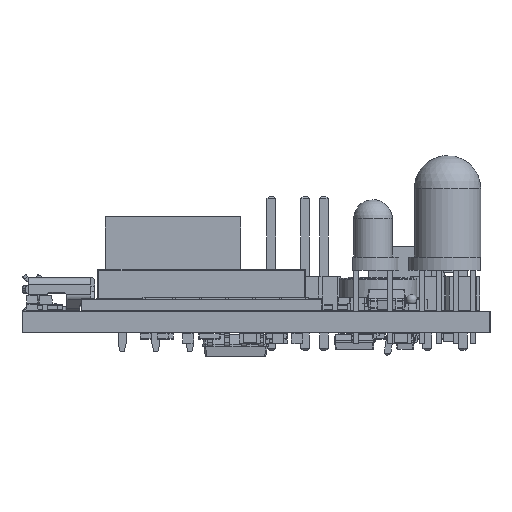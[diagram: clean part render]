
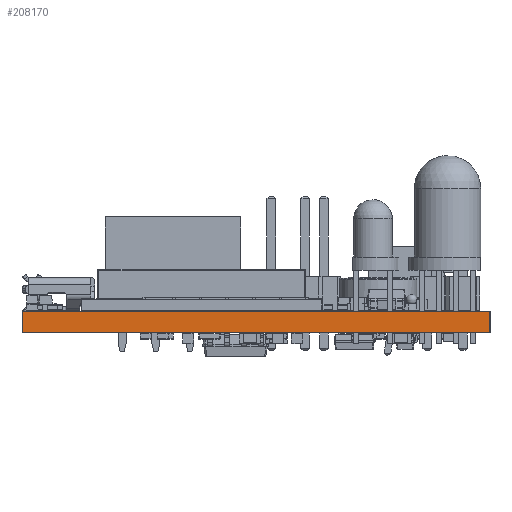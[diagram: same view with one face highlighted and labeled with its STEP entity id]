
A CAD part, left-side view. The second image highlights one B-rep face of the part: STEP entity #208170.
In plain terms, the highlighted planar face has unit normal (-1, 0, 0).
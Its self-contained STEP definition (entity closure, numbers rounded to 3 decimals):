
#208054 = EDGE_CURVE('',#208055,#208057,#208059,.T.);
#208055 = VERTEX_POINT('',#208056);
#208056 = CARTESIAN_POINT('',(-28.575,-17.526,0.));
#208057 = VERTEX_POINT('',#208058);
#208058 = CARTESIAN_POINT('',(-28.575,-17.526,1.6));
#208059 = SURFACE_CURVE('',#208060,(#208064,#208076),.PCURVE_S1.);
#208060 = LINE('',#208061,#208062);
#208061 = CARTESIAN_POINT('',(-28.575,-17.526,0.));
#208062 = VECTOR('',#208063,1.);
#208063 = DIRECTION('',(0.,0.,1.));
#208064 = PCURVE('',#208065,#208070);
#208065 = PLANE('',#208066);
#208066 = AXIS2_PLACEMENT_3D('',#208067,#208068,#208069);
#208067 = CARTESIAN_POINT('',(-28.575,-17.526,0.));
#208068 = DIRECTION('',(0.,1.,0.));
#208069 = DIRECTION('',(1.,0.,0.));
#208070 = DEFINITIONAL_REPRESENTATION('',(#208071),#208075);
#208071 = LINE('',#208072,#208073);
#208072 = CARTESIAN_POINT('',(0.,0.));
#208073 = VECTOR('',#208074,1.);
#208074 = DIRECTION('',(0.,-1.));
#208075 = ( GEOMETRIC_REPRESENTATION_CONTEXT(2) 
PARAMETRIC_REPRESENTATION_CONTEXT() REPRESENTATION_CONTEXT('2D SPACE',''
  ) );
#208076 = PCURVE('',#208077,#208082);
#208077 = PLANE('',#208078);
#208078 = AXIS2_PLACEMENT_3D('',#208079,#208080,#208081);
#208079 = CARTESIAN_POINT('',(-28.575,17.526,0.));
#208080 = DIRECTION('',(1.,0.,-0.));
#208081 = DIRECTION('',(0.,-1.,0.));
#208082 = DEFINITIONAL_REPRESENTATION('',(#208083),#208087);
#208083 = LINE('',#208084,#208085);
#208084 = CARTESIAN_POINT('',(35.052,0.));
#208085 = VECTOR('',#208086,1.);
#208086 = DIRECTION('',(0.,-1.));
#208087 = ( GEOMETRIC_REPRESENTATION_CONTEXT(2) 
PARAMETRIC_REPRESENTATION_CONTEXT() REPRESENTATION_CONTEXT('2D SPACE',''
  ) );
#208105 = PLANE('',#208106);
#208106 = AXIS2_PLACEMENT_3D('',#208107,#208108,#208109);
#208107 = CARTESIAN_POINT('',(-28.575,-17.526,1.6));
#208108 = DIRECTION('',(0.,0.,-1.));
#208109 = DIRECTION('',(-1.,0.,-0.));
#208159 = PLANE('',#208160);
#208160 = AXIS2_PLACEMENT_3D('',#208161,#208162,#208163);
#208161 = CARTESIAN_POINT('',(-28.575,-17.526,0.));
#208162 = DIRECTION('',(0.,0.,-1.));
#208163 = DIRECTION('',(-1.,0.,-0.));
#208170 = ADVANCED_FACE('',(#208171),#208077,.F.);
#208171 = FACE_BOUND('',#208172,.F.);
#208172 = EDGE_LOOP('',(#208173,#208203,#208224,#208225));
#208173 = ORIENTED_EDGE('',*,*,#208174,.T.);
#208174 = EDGE_CURVE('',#208175,#208177,#208179,.T.);
#208175 = VERTEX_POINT('',#208176);
#208176 = CARTESIAN_POINT('',(-28.575,17.526,0.));
#208177 = VERTEX_POINT('',#208178);
#208178 = CARTESIAN_POINT('',(-28.575,17.526,1.6));
#208179 = SURFACE_CURVE('',#208180,(#208184,#208191),.PCURVE_S1.);
#208180 = LINE('',#208181,#208182);
#208181 = CARTESIAN_POINT('',(-28.575,17.526,0.));
#208182 = VECTOR('',#208183,1.);
#208183 = DIRECTION('',(0.,0.,1.));
#208184 = PCURVE('',#208077,#208185);
#208185 = DEFINITIONAL_REPRESENTATION('',(#208186),#208190);
#208186 = LINE('',#208187,#208188);
#208187 = CARTESIAN_POINT('',(0.,0.));
#208188 = VECTOR('',#208189,1.);
#208189 = DIRECTION('',(0.,-1.));
#208190 = ( GEOMETRIC_REPRESENTATION_CONTEXT(2) 
PARAMETRIC_REPRESENTATION_CONTEXT() REPRESENTATION_CONTEXT('2D SPACE',''
  ) );
#208191 = PCURVE('',#208192,#208197);
#208192 = PLANE('',#208193);
#208193 = AXIS2_PLACEMENT_3D('',#208194,#208195,#208196);
#208194 = CARTESIAN_POINT('',(28.575,17.526,0.));
#208195 = DIRECTION('',(0.,-1.,0.));
#208196 = DIRECTION('',(-1.,0.,0.));
#208197 = DEFINITIONAL_REPRESENTATION('',(#208198),#208202);
#208198 = LINE('',#208199,#208200);
#208199 = CARTESIAN_POINT('',(57.15,0.));
#208200 = VECTOR('',#208201,1.);
#208201 = DIRECTION('',(0.,-1.));
#208202 = ( GEOMETRIC_REPRESENTATION_CONTEXT(2) 
PARAMETRIC_REPRESENTATION_CONTEXT() REPRESENTATION_CONTEXT('2D SPACE',''
  ) );
#208203 = ORIENTED_EDGE('',*,*,#208204,.T.);
#208204 = EDGE_CURVE('',#208177,#208057,#208205,.T.);
#208205 = SURFACE_CURVE('',#208206,(#208210,#208217),.PCURVE_S1.);
#208206 = LINE('',#208207,#208208);
#208207 = CARTESIAN_POINT('',(-28.575,17.526,1.6));
#208208 = VECTOR('',#208209,1.);
#208209 = DIRECTION('',(0.,-1.,0.));
#208210 = PCURVE('',#208077,#208211);
#208211 = DEFINITIONAL_REPRESENTATION('',(#208212),#208216);
#208212 = LINE('',#208213,#208214);
#208213 = CARTESIAN_POINT('',(0.,-1.6));
#208214 = VECTOR('',#208215,1.);
#208215 = DIRECTION('',(1.,0.));
#208216 = ( GEOMETRIC_REPRESENTATION_CONTEXT(2) 
PARAMETRIC_REPRESENTATION_CONTEXT() REPRESENTATION_CONTEXT('2D SPACE',''
  ) );
#208217 = PCURVE('',#208105,#208218);
#208218 = DEFINITIONAL_REPRESENTATION('',(#208219),#208223);
#208219 = LINE('',#208220,#208221);
#208220 = CARTESIAN_POINT('',(0.,35.052));
#208221 = VECTOR('',#208222,1.);
#208222 = DIRECTION('',(-0.,-1.));
#208223 = ( GEOMETRIC_REPRESENTATION_CONTEXT(2) 
PARAMETRIC_REPRESENTATION_CONTEXT() REPRESENTATION_CONTEXT('2D SPACE',''
  ) );
#208224 = ORIENTED_EDGE('',*,*,#208054,.F.);
#208225 = ORIENTED_EDGE('',*,*,#208226,.F.);
#208226 = EDGE_CURVE('',#208175,#208055,#208227,.T.);
#208227 = SURFACE_CURVE('',#208228,(#208232,#208239),.PCURVE_S1.);
#208228 = LINE('',#208229,#208230);
#208229 = CARTESIAN_POINT('',(-28.575,17.526,0.));
#208230 = VECTOR('',#208231,1.);
#208231 = DIRECTION('',(0.,-1.,0.));
#208232 = PCURVE('',#208077,#208233);
#208233 = DEFINITIONAL_REPRESENTATION('',(#208234),#208238);
#208234 = LINE('',#208235,#208236);
#208235 = CARTESIAN_POINT('',(0.,0.));
#208236 = VECTOR('',#208237,1.);
#208237 = DIRECTION('',(1.,0.));
#208238 = ( GEOMETRIC_REPRESENTATION_CONTEXT(2) 
PARAMETRIC_REPRESENTATION_CONTEXT() REPRESENTATION_CONTEXT('2D SPACE',''
  ) );
#208239 = PCURVE('',#208159,#208240);
#208240 = DEFINITIONAL_REPRESENTATION('',(#208241),#208245);
#208241 = LINE('',#208242,#208243);
#208242 = CARTESIAN_POINT('',(0.,35.052));
#208243 = VECTOR('',#208244,1.);
#208244 = DIRECTION('',(-0.,-1.));
#208245 = ( GEOMETRIC_REPRESENTATION_CONTEXT(2) 
PARAMETRIC_REPRESENTATION_CONTEXT() REPRESENTATION_CONTEXT('2D SPACE',''
  ) );
